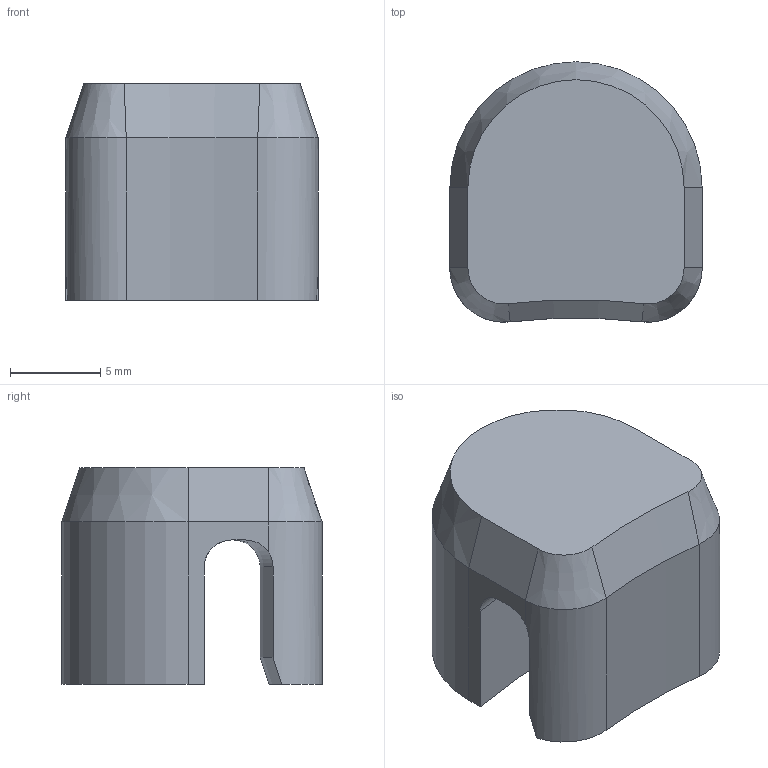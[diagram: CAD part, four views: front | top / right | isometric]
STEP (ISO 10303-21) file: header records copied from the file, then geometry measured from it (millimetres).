
FILE_DESCRIPTION(/* description */ ('','CAx-IF Rec.Pracs.---Representation and Presentation of Product Manufacturing Information (PMI)---4.0---2014-10-13'),/* implementation_level */ '2;1');
FILE_NAME(/* name */ 'Trinkhalmhalter_02.step',/* time_stamp */ '2025-01-26T17:27:26+01:00',/* author */ (''),/* organization */ (''),/* preprocessor_version */ 'ST-DEVELOPER v20',/* originating_system */ 'Autodesk Translation Framework v13.20.0.188',/* authorisation */ '');
FILE_SCHEMA (('AP242_MANAGED_MODEL_BASED_3D_ENGINEERING_MIM_LF { 1 0 10303 442 1 1 4 }'));
Length unit declared in the file: millimetre
Products named in the file (1): 01_Halmhalter-halter_v2
Bounding box: 14 x 14.44 x 12 mm (x, y, z)
Volume: 1470.7 mm3; surface area: 1157.6 mm2
Topology: 1 solids, 1 shells, 26 faces, 63 edges, 40 vertices
Faces by surface type: plane 11, cylinder 8, cone 5, torus 2
Entity records: 836 total; most frequent: CARTESIAN_POINT 187, DIRECTION 132, ORIENTED_EDGE 126, EDGE_CURVE 63, AXIS2_PLACEMENT_3D 50, VERTEX_POINT 40, LINE 32, VECTOR 32
